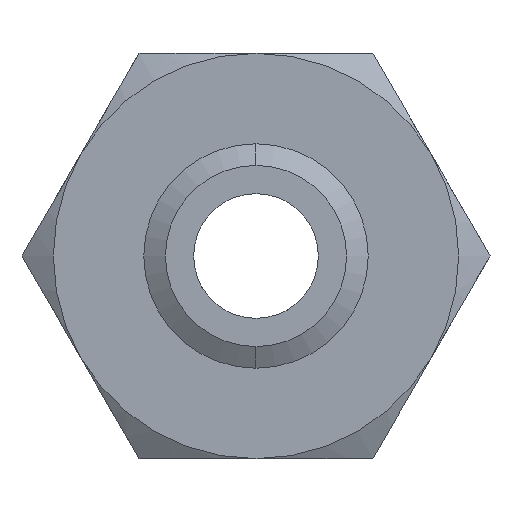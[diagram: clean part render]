
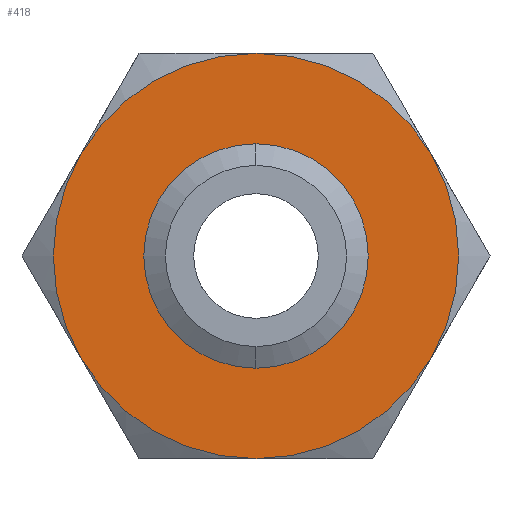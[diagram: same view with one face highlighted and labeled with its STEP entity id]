
A CAD part, front view. The second image highlights one B-rep face of the part: STEP entity #418.
In plain terms, the highlighted planar face has unit normal (0, -1, 0).
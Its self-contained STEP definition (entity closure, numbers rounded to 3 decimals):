
#418 = ADVANCED_FACE ( 'NONE', ( #1299, #1298 ), #1295, .F. ) ;
#419 = EDGE_LOOP ( 'NONE', ( #420, #425, #441, #457, #459, #462 ) ) ;
#420 = ORIENTED_EDGE ( 'NONE', *, *, #421, .F. ) ;
#421 = EDGE_CURVE ( 'NONE', #422, #423, #1355, .T. ) ;
#422 = VERTEX_POINT ( 'NONE', #1351 ) ;
#423 = VERTEX_POINT ( 'NONE', #1350 ) ;
#425 = ORIENTED_EDGE ( 'NONE', *, *, #426, .F. ) ;
#426 = EDGE_CURVE ( 'NONE', #427, #422, #1349, .T. ) ;
#427 = VERTEX_POINT ( 'NONE', #1344 ) ;
#441 = ORIENTED_EDGE ( 'NONE', *, *, #442, .F. ) ;
#442 = EDGE_CURVE ( 'NONE', #455, #427, #1382, .T. ) ;
#443 = ORIENTED_EDGE ( 'NONE', *, *, #444, .F. ) ;
#444 = EDGE_CURVE ( 'NONE', #2088, #2086, #1377, .T. ) ;
#455 = VERTEX_POINT ( 'NONE', #1417 ) ;
#456 = VERTEX_POINT ( 'NONE', #1416 ) ;
#457 = ORIENTED_EDGE ( 'NONE', *, *, #458, .F. ) ;
#458 = EDGE_CURVE ( 'NONE', #456, #455, #1415, .T. ) ;
#459 = ORIENTED_EDGE ( 'NONE', *, *, #460, .F. ) ;
#460 = EDGE_CURVE ( 'NONE', #461, #456, #1410, .T. ) ;
#461 = VERTEX_POINT ( 'NONE', #1405 ) ;
#462 = ORIENTED_EDGE ( 'NONE', *, *, #463, .F. ) ;
#463 = EDGE_CURVE ( 'NONE', #423, #461, #1404, .T. ) ;
#464 = EDGE_LOOP ( 'NONE', ( #465, #443 ) ) ;
#465 = ORIENTED_EDGE ( 'NONE', *, *, #2089, .F. ) ;
#1295 = PLANE ( 'NONE',  #1297 ) ;
#1296 = CARTESIAN_POINT ( 'NONE',  ( 18.764, 0., -32.5 ) ) ;
#1297 = AXIS2_PLACEMENT_3D ( 'NONE', #1296, #1357, #1356 ) ;
#1298 = FACE_BOUND ( 'NONE', #464, .T. ) ;
#1299 = FACE_OUTER_BOUND ( 'NONE', #419, .T. ) ;
#1344 = CARTESIAN_POINT ( 'NONE',  ( -28.146, 0., 16.25 ) ) ;
#1345 = DIRECTION ( 'NONE',  ( 0., 0., 1. ) ) ;
#1346 = DIRECTION ( 'NONE',  ( 0., 1., 0. ) ) ;
#1347 = CARTESIAN_POINT ( 'NONE',  ( 0., 0., 0. ) ) ;
#1348 = AXIS2_PLACEMENT_3D ( 'NONE', #1347, #1346, #1345 ) ;
#1349 = CIRCLE ( 'NONE', #1348, 32.5 ) ;
#1350 = CARTESIAN_POINT ( 'NONE',  ( 28.146, 0., 16.25 ) ) ;
#1351 = CARTESIAN_POINT ( 'NONE',  ( 0., 0., 32.5 ) ) ;
#1352 = DIRECTION ( 'NONE',  ( 0., 0., 1. ) ) ;
#1353 = DIRECTION ( 'NONE',  ( 0., 1., 0. ) ) ;
#1354 = AXIS2_PLACEMENT_3D ( 'NONE', #1358, #1353, #1352 ) ;
#1355 = CIRCLE ( 'NONE', #1354, 32.5 ) ;
#1356 = DIRECTION ( 'NONE',  ( 0., 0., 1. ) ) ;
#1357 = DIRECTION ( 'NONE',  ( 0., 1., 0. ) ) ;
#1358 = CARTESIAN_POINT ( 'NONE',  ( 0., 0., 0. ) ) ;
#1374 = DIRECTION ( 'NONE',  ( 0., 0., -1. ) ) ;
#1375 = DIRECTION ( 'NONE',  ( 0., -1., 0. ) ) ;
#1376 = AXIS2_PLACEMENT_3D ( 'NONE', #1383, #1375, #1374 ) ;
#1377 = CIRCLE ( 'NONE', #1376, 14.536 ) ;
#1378 = DIRECTION ( 'NONE',  ( 0., 0., 1. ) ) ;
#1379 = DIRECTION ( 'NONE',  ( 0., 1., 0. ) ) ;
#1380 = CARTESIAN_POINT ( 'NONE',  ( 0., 0., 0. ) ) ;
#1381 = AXIS2_PLACEMENT_3D ( 'NONE', #1380, #1379, #1378 ) ;
#1382 = CIRCLE ( 'NONE', #1381, 32.5 ) ;
#1383 = CARTESIAN_POINT ( 'NONE',  ( 0., 0., 0. ) ) ;
#1400 = DIRECTION ( 'NONE',  ( 0., 0., 1. ) ) ;
#1401 = DIRECTION ( 'NONE',  ( 0., 1., 0. ) ) ;
#1402 = CARTESIAN_POINT ( 'NONE',  ( 0., 0., 0. ) ) ;
#1403 = AXIS2_PLACEMENT_3D ( 'NONE', #1402, #1401, #1400 ) ;
#1404 = CIRCLE ( 'NONE', #1403, 32.5 ) ;
#1405 = CARTESIAN_POINT ( 'NONE',  ( 28.146, 0., -16.25 ) ) ;
#1406 = DIRECTION ( 'NONE',  ( 0., 0., 1. ) ) ;
#1407 = DIRECTION ( 'NONE',  ( 0., 1., 0. ) ) ;
#1408 = CARTESIAN_POINT ( 'NONE',  ( 0., 0., 0. ) ) ;
#1409 = AXIS2_PLACEMENT_3D ( 'NONE', #1408, #1407, #1406 ) ;
#1410 = CIRCLE ( 'NONE', #1409, 32.5 ) ;
#1411 = DIRECTION ( 'NONE',  ( 0., 0., 1. ) ) ;
#1412 = DIRECTION ( 'NONE',  ( 0., 1., 0. ) ) ;
#1413 = CARTESIAN_POINT ( 'NONE',  ( 0., 0., 0. ) ) ;
#1414 = AXIS2_PLACEMENT_3D ( 'NONE', #1413, #1412, #1411 ) ;
#1415 = CIRCLE ( 'NONE', #1414, 32.5 ) ;
#1416 = CARTESIAN_POINT ( 'NONE',  ( 0., 0., -32.5 ) ) ;
#1417 = CARTESIAN_POINT ( 'NONE',  ( -28.146, 0., -16.25 ) ) ;
#1809 = DIRECTION ( 'NONE',  ( 0., 0., -1. ) ) ;
#1810 = DIRECTION ( 'NONE',  ( 0., -1., 0. ) ) ;
#1811 = CARTESIAN_POINT ( 'NONE',  ( 0., 0., 0. ) ) ;
#1812 = AXIS2_PLACEMENT_3D ( 'NONE', #1811, #1810, #1809 ) ;
#1813 = CIRCLE ( 'NONE', #1812, 14.536 ) ;
#1814 = CARTESIAN_POINT ( 'NONE',  ( 0., 0., 14.536 ) ) ;
#1815 = CARTESIAN_POINT ( 'NONE',  ( 0., 0., -14.536 ) ) ;
#2086 = VERTEX_POINT ( 'NONE', #1815 ) ;
#2088 = VERTEX_POINT ( 'NONE', #1814 ) ;
#2089 = EDGE_CURVE ( 'NONE', #2086, #2088, #1813, .T. ) ;
